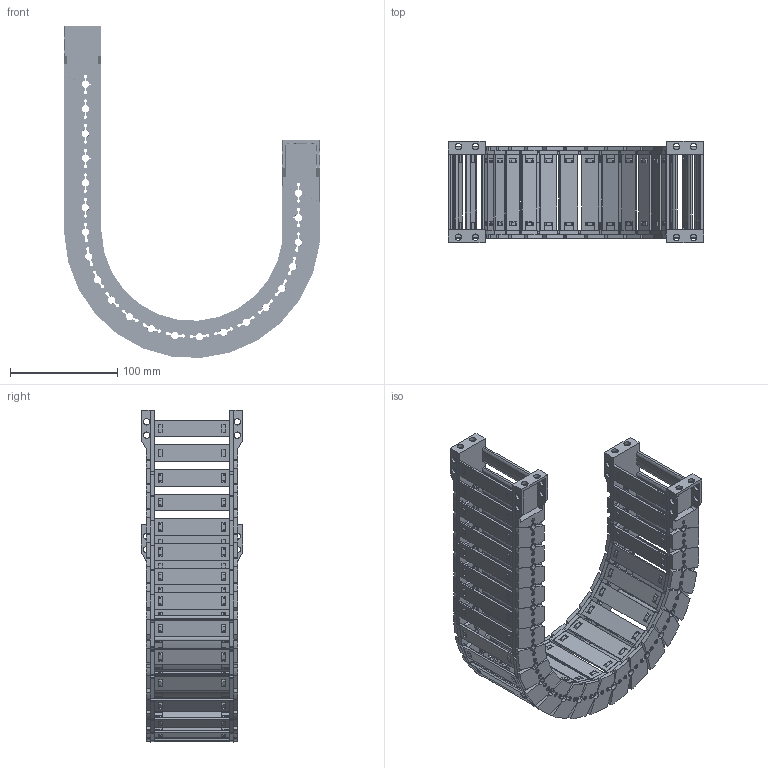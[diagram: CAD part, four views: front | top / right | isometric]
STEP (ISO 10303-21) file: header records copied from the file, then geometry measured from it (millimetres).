
FILE_DESCRIPTION(/* description */ (''),/* implementation_level */ '2;1');
FILE_NAME(/* name */ 'JY28-70-R100.stp',/* time_stamp */ '2026-06-03T15:46:42+08:00',/* author */ (''),/* organization */ (''),/* preprocessor_version */ 'ST-DEVELOPER v19.4',/* originating_system */ 'SIEMENS PLM Software NX2306.5001',/* authorisation */ '');
FILE_SCHEMA (('AP203_CONFIGURATION_CONTROLLED_3D_DESIGN_OF_MECHANICAL_PARTS_AND_ASSEMBLIES_MIM_LF { 1 0 10303 403 2 1 2}'));
Products named in the file (1): 简化图纸_objects
Bounding box: 238.21 x 94.5 x 309.61 mm (x, y, z)
Volume: 421336.3 mm3; surface area: 306272.2 mm2
Topology: 86 solids, 86 shells, 7166 faces, 20384 edges, 13324 vertices
Faces by surface type: plane 4694, cone 1300, cylinder 1128, bspline 42, torus 2
Full cylindrical faces by diameter (mm): 6 x24
Entity records: 242416 total; most frequent: CARTESIAN_POINT 53852, ORIENTED_EDGE 40676, DIRECTION 38192, EDGE_CURVE 20338, LINE 13462, VECTOR 13462, VERTEX_POINT 13302, AXIS2_PLACEMENT_3D 12365
